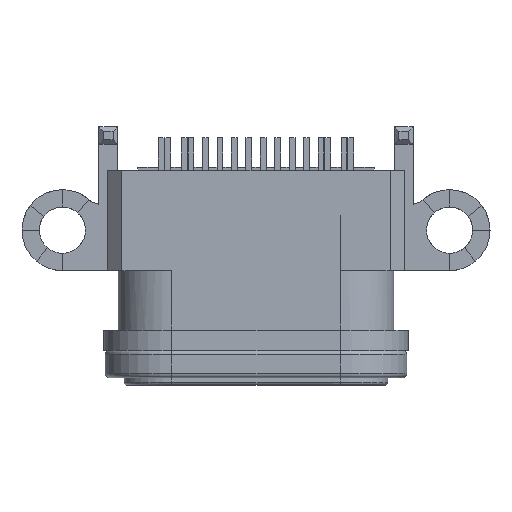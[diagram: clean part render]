
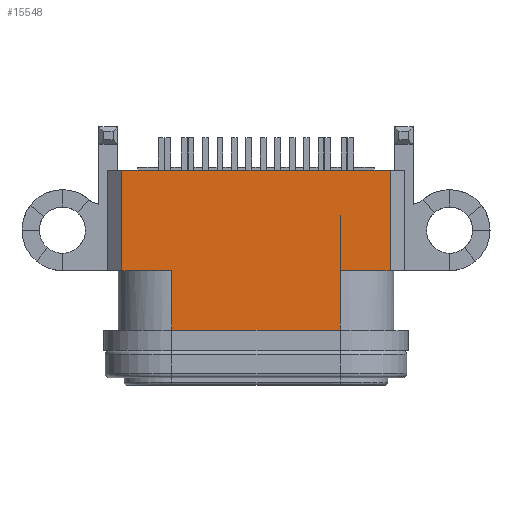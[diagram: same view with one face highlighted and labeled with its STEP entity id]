
A CAD part, top view. The second image highlights one B-rep face of the part: STEP entity #15548.
In plain terms, the highlighted planar face has unit normal (0, 0, 1).
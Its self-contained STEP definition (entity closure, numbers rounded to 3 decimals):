
#67 = ORIENTED_EDGE ( 'NONE', *, *, #13306, .F. ) ;
#521 = DIRECTION ( 'NONE',  ( 1., 0., 0. ) ) ;
#571 = CARTESIAN_POINT ( 'NONE',  ( 2.58, 18.395, 0.95 ) ) ;
#753 = CARTESIAN_POINT ( 'NONE',  ( 2.58, 4.161, 0.95 ) ) ;
#901 = CARTESIAN_POINT ( 'NONE',  ( 0.86, 6.221, 0.95 ) ) ;
#1036 = ORIENTED_EDGE ( 'NONE', *, *, #5119, .F. ) ;
#1264 = VECTOR ( 'NONE', #11637, 1000. ) ;
#2488 = VERTEX_POINT ( 'NONE', #753 ) ;
#2610 = LINE ( 'NONE', #5679, #9938 ) ;
#2674 = LINE ( 'NONE', #4524, #13612 ) ;
#2952 = EDGE_CURVE ( 'NONE', #7916, #2488, #16472, .T. ) ;
#3344 = CARTESIAN_POINT ( 'NONE',  ( 2.58, 6.221, 0.95 ) ) ;
#3362 = LINE ( 'NONE', #19397, #9203 ) ;
#3568 = DIRECTION ( 'NONE',  ( 0., 1., 0. ) ) ;
#3666 = LINE ( 'NONE', #9831, #10311 ) ;
#4138 = EDGE_CURVE ( 'NONE', #17546, #2488, #18319, .T. ) ;
#4524 = CARTESIAN_POINT ( 'NONE',  ( 0.86, 6.221, 0.95 ) ) ;
#5071 = CARTESIAN_POINT ( 'NONE',  ( 8.42, 6.221, 0.95 ) ) ;
#5099 = CARTESIAN_POINT ( 'NONE',  ( 10.14, 6.221, 0.95 ) ) ;
#5105 = DIRECTION ( 'NONE',  ( 1., 0., 0. ) ) ;
#5119 = EDGE_CURVE ( 'NONE', #14924, #7916, #14637, .T. ) ;
#5263 = ORIENTED_EDGE ( 'NONE', *, *, #8693, .F. ) ;
#5372 = LINE ( 'NONE', #5071, #10323 ) ;
#5679 = CARTESIAN_POINT ( 'NONE',  ( 10.14, 18.395, 0.95 ) ) ;
#5743 = ORIENTED_EDGE ( 'NONE', *, *, #2952, .F. ) ;
#5857 = CARTESIAN_POINT ( 'NONE',  ( 8.42, 8.141, 0.95 ) ) ;
#5863 = VERTEX_POINT ( 'NONE', #5099 ) ;
#6368 = VERTEX_POINT ( 'NONE', #12058 ) ;
#6812 = CARTESIAN_POINT ( 'NONE',  ( 8.42, 18.395, 0.95 ) ) ;
#7916 = VERTEX_POINT ( 'NONE', #13051 ) ;
#8390 = FACE_OUTER_BOUND ( 'NONE', #11069, .T. ) ;
#8693 = EDGE_CURVE ( 'NONE', #6368, #9387, #17707, .T. ) ;
#8848 = ORIENTED_EDGE ( 'NONE', *, *, #4138, .T. ) ;
#9053 = CARTESIAN_POINT ( 'NONE',  ( 2.58, 18.395, 0.95 ) ) ;
#9203 = VECTOR ( 'NONE', #11580, 1000. ) ;
#9387 = VERTEX_POINT ( 'NONE', #15810 ) ;
#9831 = CARTESIAN_POINT ( 'NONE',  ( 8.42, 8.741, 0.95 ) ) ;
#9938 = VECTOR ( 'NONE', #14843, 1000. ) ;
#10311 = VECTOR ( 'NONE', #3568, 1000. ) ;
#10323 = VECTOR ( 'NONE', #11750, 1000. ) ;
#10380 = DIRECTION ( 'NONE',  ( 0., -1., 0. ) ) ;
#10468 = EDGE_CURVE ( 'NONE', #17546, #11597, #3362, .T. ) ;
#11069 = EDGE_LOOP ( 'NONE', ( #67, #17738, #5263, #14657, #14516, #8848, #5743, #1036, #11288 ) ) ;
#11288 = ORIENTED_EDGE ( 'NONE', *, *, #14471, .F. ) ;
#11580 = DIRECTION ( 'NONE',  ( -1., 0., 0. ) ) ;
#11597 = VERTEX_POINT ( 'NONE', #901 ) ;
#11615 = VERTEX_POINT ( 'NONE', #12020 ) ;
#11637 = DIRECTION ( 'NONE',  ( -1., 0., 0. ) ) ;
#11750 = DIRECTION ( 'NONE',  ( -1., 0., 0. ) ) ;
#11888 = EDGE_CURVE ( 'NONE', #5863, #9387, #2610, .T. ) ;
#12020 = CARTESIAN_POINT ( 'NONE',  ( 8.42, 6.221, 0.95 ) ) ;
#12058 = CARTESIAN_POINT ( 'NONE',  ( 0.86, 9.695, 0.95 ) ) ;
#12654 = AXIS2_PLACEMENT_3D ( 'NONE', #571, #14772, #5105 ) ;
#13051 = CARTESIAN_POINT ( 'NONE',  ( 8.42, 4.161, 0.95 ) ) ;
#13097 = DIRECTION ( 'NONE',  ( 0., -1., 0. ) ) ;
#13306 = EDGE_CURVE ( 'NONE', #5863, #11615, #5372, .T. ) ;
#13612 = VECTOR ( 'NONE', #10380, 1000. ) ;
#14471 = EDGE_CURVE ( 'NONE', #11615, #14924, #3666, .T. ) ;
#14516 = ORIENTED_EDGE ( 'NONE', *, *, #10468, .F. ) ;
#14637 = LINE ( 'NONE', #6812, #15876 ) ;
#14657 = ORIENTED_EDGE ( 'NONE', *, *, #20091, .T. ) ;
#14672 = PLANE ( 'NONE',  #12654 ) ;
#14772 = DIRECTION ( 'NONE',  ( 0., 0., 1. ) ) ;
#14843 = DIRECTION ( 'NONE',  ( 0., 1., 0. ) ) ;
#14924 = VERTEX_POINT ( 'NONE', #5857 ) ;
#15536 = DIRECTION ( 'NONE',  ( 0., -1., 0. ) ) ;
#15548 = ADVANCED_FACE ( 'NONE', ( #8390 ), #14672, .T. ) ;
#15810 = CARTESIAN_POINT ( 'NONE',  ( 10.14, 9.695, 0.95 ) ) ;
#15876 = VECTOR ( 'NONE', #13097, 1000. ) ;
#16162 = CARTESIAN_POINT ( 'NONE',  ( 2.58, 9.695, 0.95 ) ) ;
#16472 = LINE ( 'NONE', #19746, #1264 ) ;
#17054 = VECTOR ( 'NONE', #521, 1000. ) ;
#17546 = VERTEX_POINT ( 'NONE', #3344 ) ;
#17573 = VECTOR ( 'NONE', #15536, 1000. ) ;
#17707 = LINE ( 'NONE', #16162, #17054 ) ;
#17738 = ORIENTED_EDGE ( 'NONE', *, *, #11888, .T. ) ;
#18319 = LINE ( 'NONE', #9053, #17573 ) ;
#19397 = CARTESIAN_POINT ( 'NONE',  ( 2.58, 6.221, 0.95 ) ) ;
#19746 = CARTESIAN_POINT ( 'NONE',  ( 8.42, 4.161, 0.95 ) ) ;
#20091 = EDGE_CURVE ( 'NONE', #6368, #11597, #2674, .T. ) ;
